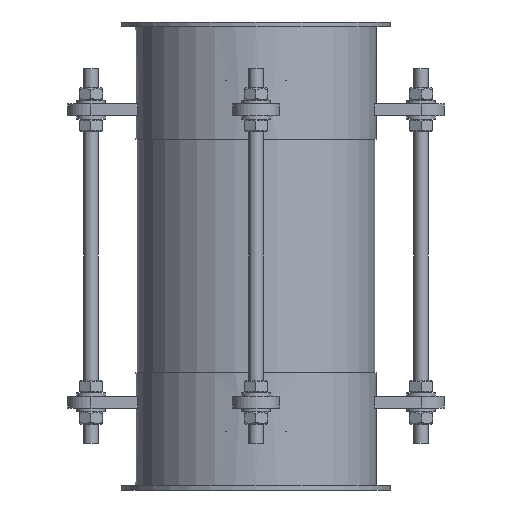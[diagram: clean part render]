
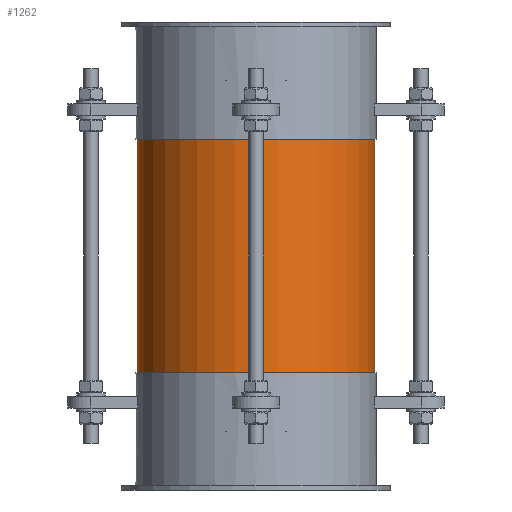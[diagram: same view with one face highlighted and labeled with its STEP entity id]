
A CAD part, front view. The second image highlights one B-rep face of the part: STEP entity #1262.
In plain terms, the highlighted cylindrical face has radius 50.75 mm (diameter 101.5 mm), a full revolution.
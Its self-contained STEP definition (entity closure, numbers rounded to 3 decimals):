
#1235=CARTESIAN_POINT('',(0.0,0.0,0.0));
#1236=DIRECTION('',(0.0,0.0,1.0));
#1237=DIRECTION('',(-1.0,0.0,0.0));
#1238=AXIS2_PLACEMENT_3D('',#1235,#1236,#1237);
#1239=CYLINDRICAL_SURFACE('',#1238,50.75);
#1240=CARTESIAN_POINT('',(50.75,0.,150.0));
#1241=VERTEX_POINT('',#1240);
#1242=CARTESIAN_POINT('',(0.0,0.0,150.0));
#1243=DIRECTION('',(0.0,0.0,-1.0));
#1244=DIRECTION('',(-1.0,0.0,0.0));
#1245=AXIS2_PLACEMENT_3D('',#1242,#1243,#1244);
#1246=CIRCLE('',#1245,50.75);
#1247=EDGE_CURVE('',#1241,#1241,#1246,.T.);
#1248=ORIENTED_EDGE('',*,*,#1247,.T.);
#1249=EDGE_LOOP('',(#1248));
#1250=FACE_OUTER_BOUND('',#1249,.T.);
#1251=CARTESIAN_POINT('',(50.75,0.,0.0));
#1252=VERTEX_POINT('',#1251);
#1253=CARTESIAN_POINT('',(0.0,0.0,0.0));
#1254=DIRECTION('',(0.0,0.0,-1.0));
#1255=DIRECTION('',(-1.0,0.0,0.0));
#1256=AXIS2_PLACEMENT_3D('',#1253,#1254,#1255);
#1257=CIRCLE('',#1256,50.75);
#1258=EDGE_CURVE('',#1252,#1252,#1257,.T.);
#1259=ORIENTED_EDGE('',*,*,#1258,.F.);
#1260=EDGE_LOOP('',(#1259));
#1261=FACE_BOUND('',#1260,.T.);
#1262=ADVANCED_FACE('',(#1250,#1261),#1239,.T.);
